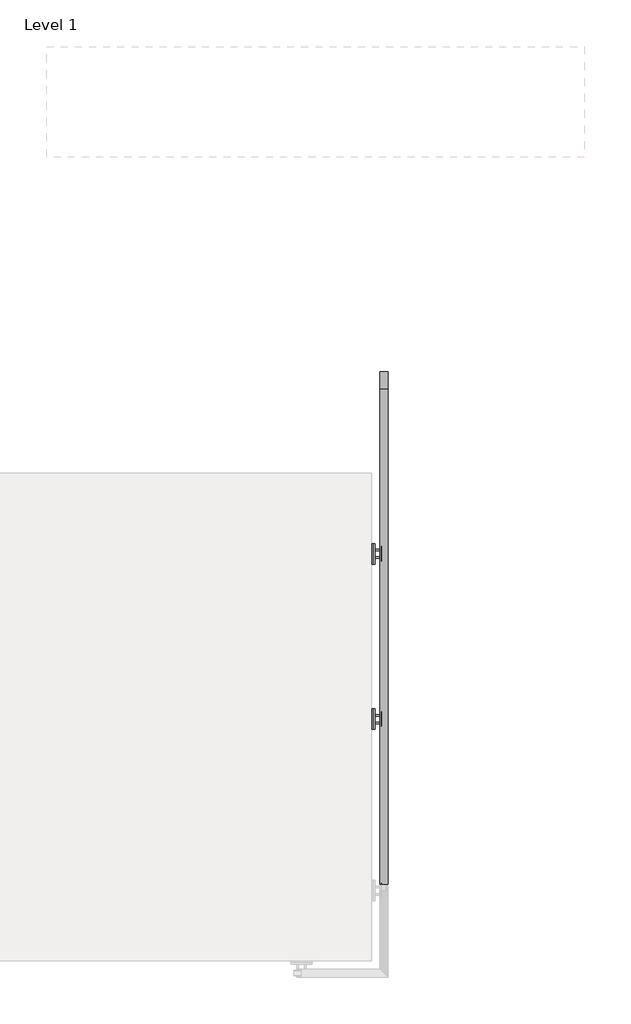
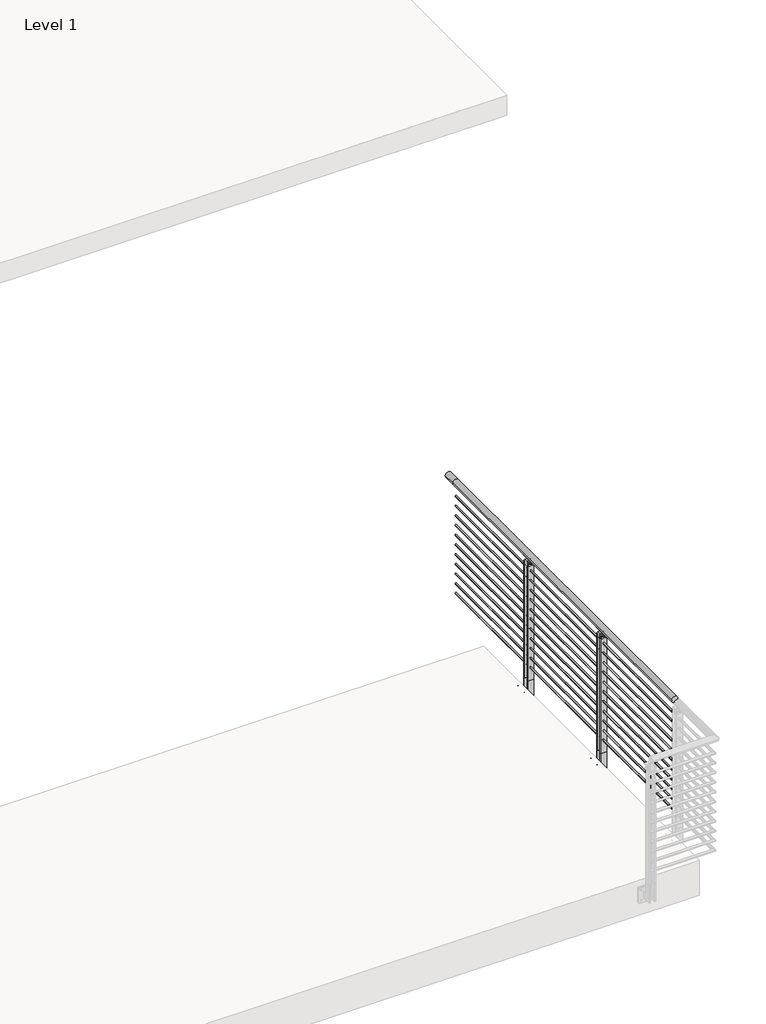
# One storey, part 4 of 36: 1 railing.
"""IFC4 building model written with IfcOpenShell, lengths in millimetres."""

from ifc_helpers import new_model, si_unit, point, frame, frame_2d, origin, origin_with_axes, place, context, project, spatial, polyline, circle_curve, trimmed, segment, composite_curve, outline, extrude, element, save
from ifc_brep_helpers import plane_surface, cylinder_surface, revolved_surface, advanced_brep

model = new_model("IFC4")

# Units and contexts
model_context = context("Model", 3, world=origin())
ifc_project = project(units=[si_unit("LENGTHUNIT", "METRE", prefix="MILLI")], contexts=[model_context])

# Site, building, storey
site = spatial("IfcSite", under=ifc_project)
building = spatial("IfcBuilding", under=site)
storey = spatial("IfcBuildingStorey", under=building, Name="Level 1", Elevation=0.0)

# Railing
placement = place(None, origin())
element("IfcRailing", 1, ObjectType="VIVA-BLADE-Multiline-Fascia Mount-Straight", at=placement, inside=storey, context=model_context, shape_type="SolidModel", body=[
    advanced_brep(
    [(-4882.5880416, -71395.7334719, 1054.1), (-4831.7880416, -71395.7334719, 1054.1), (-4882.5880416, -71497.3334719, 1054.1), (-4831.7880416, -71497.3334719, 1054.1), (-4882.5880416, -74545.3334719, 1054.1), (-4831.7880416, -74545.3334719, 1054.1)],
    [
        (0, 1, circle_curve(frame((-4857.1880416, -71395.7334719, 1054.1), z_axis=(0.0, 1.0, 0.0), x_axis=(1.0, 0.0, 0.0)), 25.4)),
        (1, 0, circle_curve(frame((-4857.1880416, -71395.7334719, 1054.1), z_axis=(0.0, 1.0, 0.0), x_axis=(1.0, 0.0, 0.0)), 25.4)),
        (0, 2),
        (2, 3, circle_curve(frame((-4857.1880416, -71497.3334719, 1054.1), z_axis=(0.0, 1.0, 0.0), x_axis=(1.0, 0.0, 0.0)), 25.4)),
        (3, 1),
        (3, 2, circle_curve(frame((-4857.1880416, -71497.3334719, 1054.1), z_axis=(0.0, 1.0, 0.0), x_axis=(1.0, 0.0, 0.0)), 25.4)),
        (4, 5, circle_curve(frame((-4857.1880416, -74545.3334719, 1054.1), z_axis=(0.0, -1.0, 0.0), x_axis=(1.0, 0.0, 0.0)), 25.4)),
        (5, 4, circle_curve(frame((-4857.1880416, -74545.3334719, 1054.1), z_axis=(0.0, -1.0, 0.0), x_axis=(1.0, 0.0, 0.0)), 25.4)),
        (2, 4),
        (5, 3),
    ],
    [
        plane_surface(frame((-4857.1880416, -71395.7334719, 1079.5), z_axis=(0.0, 1.0, 0.0), x_axis=(0.0, 0.0, -1.0))),
        cylinder_surface(frame((-4857.1880416, -71395.7334719, 1054.1), z_axis=(0.0, 1.0, 0.0), x_axis=(1.0, 0.0, 0.0)), 25.4),
        plane_surface(frame((-4857.1880416, -74545.3334719, 1079.5), z_axis=(0.0, -1.0, 0.0), x_axis=(0.0, 0.0, -1.0))),
        cylinder_surface(frame((-4857.1880416, -71497.3334719, 1054.1), z_axis=(0.0, 1.0, 0.0), x_axis=(1.0, 0.0, 0.0)), 25.4),
    ],
    [
        (0, [[1, 2]]),
        (1, [[-1, 3, 4, 5]]),
        (1, [[-2, -5, 6, -3]]),
        (2, [[7, 8]]),
        (3, [[-4, 9, -8, 10]]),
        (3, [[-6, -10, -7, -9]]),
    ],
),
    extrude(outline(composite_curve([segment(trimmed(circle_curve(frame_2d((933.45, -4857.1880416)), 6.35), [point((933.45, -4863.5380416))], [point((933.45, -4850.8380416))], False, "CARTESIAN"), True, "CONTINUOUS"), segment(trimmed(circle_curve(frame_2d((933.45, -4857.1880416)), 6.35), [point((933.45, -4850.8380416))], [point((933.45, -4863.5380416))], False, "CARTESIAN"), True, "CONTINUOUS")], self_intersect=False)), frame((0.0, -74545.3334719, 0.0), z_axis=(0.0, 1.0, 0.0), x_axis=(0.0, 0.0, 1.0)), (0.0, 0.0, 1.0), 3048.0),
    extrude(outline(composite_curve([segment(trimmed(circle_curve(frame_2d((850.9, -4857.1880416)), 6.35), [point((850.9, -4863.5380416))], [point((850.9, -4850.8380416))], False, "CARTESIAN"), True, "CONTINUOUS"), segment(trimmed(circle_curve(frame_2d((850.9, -4857.1880416)), 6.35), [point((850.9, -4850.8380416))], [point((850.9, -4863.5380416))], False, "CARTESIAN"), True, "CONTINUOUS")], self_intersect=False)), frame((0.0, -74545.3334719, 0.0), z_axis=(0.0, 1.0, 0.0), x_axis=(0.0, 0.0, 1.0)), (0.0, 0.0, 1.0), 3048.0),
    extrude(outline(composite_curve([segment(trimmed(circle_curve(frame_2d((768.35, -4857.1880416)), 6.35), [point((768.35, -4863.5380416))], [point((768.35, -4850.8380416))], False, "CARTESIAN"), True, "CONTINUOUS"), segment(trimmed(circle_curve(frame_2d((768.35, -4857.1880416)), 6.35), [point((768.35, -4850.8380416))], [point((768.35, -4863.5380416))], False, "CARTESIAN"), True, "CONTINUOUS")], self_intersect=False)), frame((0.0, -74545.3334719, 0.0), z_axis=(0.0, 1.0, 0.0), x_axis=(0.0, 0.0, 1.0)), (0.0, 0.0, 1.0), 3048.0),
    extrude(outline(composite_curve([segment(trimmed(circle_curve(frame_2d((685.8, -4857.1880416)), 6.35), [point((685.8, -4863.5380416))], [point((685.8, -4850.8380416))], False, "CARTESIAN"), True, "CONTINUOUS"), segment(trimmed(circle_curve(frame_2d((685.8, -4857.1880416)), 6.35), [point((685.8, -4850.8380416))], [point((685.8, -4863.5380416))], False, "CARTESIAN"), True, "CONTINUOUS")], self_intersect=False)), frame((0.0, -74545.3334719, 0.0), z_axis=(0.0, 1.0, 0.0), x_axis=(0.0, 0.0, 1.0)), (0.0, 0.0, 1.0), 3048.0),
    extrude(outline(composite_curve([segment(trimmed(circle_curve(frame_2d((603.25, -4857.1880416)), 6.35), [point((603.25, -4863.5380416))], [point((603.25, -4850.8380416))], False, "CARTESIAN"), True, "CONTINUOUS"), segment(trimmed(circle_curve(frame_2d((603.25, -4857.1880416)), 6.35), [point((603.25, -4850.8380416))], [point((603.25, -4863.5380416))], False, "CARTESIAN"), True, "CONTINUOUS")], self_intersect=False)), frame((0.0, -74545.3334719, 0.0), z_axis=(0.0, 1.0, 0.0), x_axis=(0.0, 0.0, 1.0)), (0.0, 0.0, 1.0), 3048.0),
    extrude(outline(composite_curve([segment(trimmed(circle_curve(frame_2d((520.7, -4857.1880416)), 6.35), [point((520.7, -4863.5380416))], [point((520.7, -4850.8380416))], False, "CARTESIAN"), True, "CONTINUOUS"), segment(trimmed(circle_curve(frame_2d((520.7, -4857.1880416)), 6.35), [point((520.7, -4850.8380416))], [point((520.7, -4863.5380416))], False, "CARTESIAN"), True, "CONTINUOUS")], self_intersect=False)), frame((0.0, -74545.3334719, 0.0), z_axis=(0.0, 1.0, 0.0), x_axis=(0.0, 0.0, 1.0)), (0.0, 0.0, 1.0), 3048.0),
    extrude(outline(composite_curve([segment(trimmed(circle_curve(frame_2d((438.15, -4857.1880416)), 6.35), [point((438.15, -4863.5380416))], [point((438.15, -4850.8380416))], False, "CARTESIAN"), True, "CONTINUOUS"), segment(trimmed(circle_curve(frame_2d((438.15, -4857.1880416)), 6.35), [point((438.15, -4850.8380416))], [point((438.15, -4863.5380416))], False, "CARTESIAN"), True, "CONTINUOUS")], self_intersect=False)), frame((0.0, -74545.3334719, 0.0), z_axis=(0.0, 1.0, 0.0), x_axis=(0.0, 0.0, 1.0)), (0.0, 0.0, 1.0), 3048.0),
    extrude(outline(composite_curve([segment(trimmed(circle_curve(frame_2d((355.6, -4857.1880416)), 6.35), [point((355.6, -4863.5380416))], [point((355.6, -4850.8380416))], False, "CARTESIAN"), True, "CONTINUOUS"), segment(trimmed(circle_curve(frame_2d((355.6, -4857.1880416)), 6.35), [point((355.6, -4850.8380416))], [point((355.6, -4863.5380416))], False, "CARTESIAN"), True, "CONTINUOUS")], self_intersect=False)), frame((0.0, -74545.3334719, 0.0), z_axis=(0.0, 1.0, 0.0), x_axis=(0.0, 0.0, 1.0)), (0.0, 0.0, 1.0), 3048.0),
    extrude(outline(composite_curve([segment(trimmed(circle_curve(frame_2d((273.05, -4857.1880416)), 6.35), [point((273.05, -4863.5380416))], [point((273.05, -4850.8380416))], False, "CARTESIAN"), True, "CONTINUOUS"), segment(trimmed(circle_curve(frame_2d((273.05, -4857.1880416)), 6.35), [point((273.05, -4850.8380416))], [point((273.05, -4863.5380416))], False, "CARTESIAN"), True, "CONTINUOUS")], self_intersect=False)), frame((0.0, -74545.3334719, 0.0), z_axis=(0.0, 1.0, 0.0), x_axis=(0.0, 0.0, 1.0)), (0.0, 0.0, 1.0), 3048.0),
    extrude(outline(composite_curve([segment(trimmed(circle_curve(frame_2d((190.5, -4857.1880416)), 6.35), [point((190.5, -4863.5380416))], [point((190.5, -4850.8380416))], False, "CARTESIAN"), True, "CONTINUOUS"), segment(trimmed(circle_curve(frame_2d((190.5, -4857.1880416)), 6.35), [point((190.5, -4850.8380416))], [point((190.5, -4863.5380416))], False, "CARTESIAN"), True, "CONTINUOUS")], self_intersect=False)), frame((0.0, -74545.3334719, 0.0), z_axis=(0.0, 1.0, 0.0), x_axis=(0.0, 0.0, 1.0)), (0.0, 0.0, 1.0), 3048.0),
    extrude(outline(composite_curve([segment(trimmed(circle_curve(frame_2d((107.95, -4857.1880416)), 6.35), [point((107.95, -4863.5380416))], [point((107.95, -4850.8380416))], False, "CARTESIAN"), True, "CONTINUOUS"), segment(trimmed(circle_curve(frame_2d((107.95, -4857.1880416)), 6.35), [point((107.95, -4850.8380416))], [point((107.95, -4863.5380416))], False, "CARTESIAN"), True, "CONTINUOUS")], self_intersect=False)), frame((0.0, -74545.3334719, 0.0), z_axis=(0.0, 1.0, 0.0), x_axis=(0.0, 0.0, 1.0)), (0.0, 0.0, 1.0), 3048.0),
    extrude(outline(polyline([(-146.05, -4831.7855137), (0.0, -4831.7855137), (0.0, -4882.5855137), (-95.25, -4882.5855137), (-95.25, -4914.3382474), (-146.05, -4914.3382474), (-146.05, -4831.7855137)])), frame((0.0, -73510.2834719, 0.0), z_axis=(0.0, 1.0, 0.0), x_axis=(0.0, 0.0, 1.0)), (0.0, 0.0, 1.0), 8.0248357),
    extrude(outline(polyline([(0.0, -4882.5855137), (-95.25, -4882.5855137), (-95.25, -4914.3382474), (-146.05, -4914.3382474), (-146.05, -4831.7855137), (0.0, -4831.7855137), (0.0, -4882.5855137)])), frame((0.0, -73556.3844338, 0.0), z_axis=(0.0, 1.0, 0.0), x_axis=(0.0, 0.0, 1.0)), (0.0, 0.0, 1.0), 8.001),
    advanced_brep(
    [(-4869.9481653, -73574.5708719, 1032.0967655), (-4873.7840627, -73574.5708719, 1027.707533), (-4842.2671704, -73574.5708719, 1027.1267745), (-4845.0761007, -73574.5708719, 1031.9535285), (-4869.9481653, -73484.0960719, 1032.0967655), (-4844.9891286, -73484.0960719, 1032.0018447), (-4842.153377, -73484.0960719, 1027.1893964), (-4873.7840627, -73484.0960719, 1027.707533)],
    [
        (0, 1, circle_curve(frame((-4871.4957229, -73574.5708719, 1029.5784521), z_axis=(0.0, -1.0, 0.0), x_axis=(-1.0, 0.0, 0.0)), 2.9558141)),
        (1, 2, circle_curve(frame((-4857.5178255, -73574.5708719, 1054.9742164), z_axis=(0.0, -1.0, 0.0), x_axis=(-1.0, 0.0, 0.0)), 31.75)),
        (2, 3, circle_curve(frame((-4843.7444755, -73574.5708719, 1029.4993599), z_axis=(0.0, -1.0, 0.0), x_axis=(-1.0, 0.0, 0.0)), 2.7949225)),
        (3, 0, circle_curve(frame((-4857.3843624, -73574.5708719, 1054.2115898), z_axis=(0.0, 1.0, 0.0), x_axis=(-1.0, 0.0, 0.0)), 25.4345159)),
        (4, 5, circle_curve(frame((-4857.3843624, -73484.0960719, 1054.2115898), z_axis=(0.0, -1.0, 0.0), x_axis=(-1.0, 0.0, 0.0)), 25.4345159)),
        (5, 6, circle_curve(frame((-4843.7444755, -73484.0960719, 1029.4993599), z_axis=(0.0, 1.0, 0.0), x_axis=(-1.0, 0.0, 0.0)), 2.7949225)),
        (6, 7, circle_curve(frame((-4857.5178255, -73484.0960719, 1054.9742164), z_axis=(0.0, 1.0, 0.0), x_axis=(-1.0, 0.0, 0.0)), 31.75)),
        (7, 4, circle_curve(frame((-4871.4957229, -73484.0960719, 1029.5784521), z_axis=(0.0, 1.0, 0.0), x_axis=(-1.0, 0.0, 0.0)), 2.9558141)),
        (3, 5),
        (4, 0),
        (2, 6),
        (1, 7),
    ],
    [
        plane_surface(frame((-4882.8188782, -73574.5708719, 1054.2115898), z_axis=(0.0, -1.0, 0.0), x_axis=(0.0, 0.0, -1.0))),
        plane_surface(frame((-4882.8188782, -73484.0960719, 1054.2115898), z_axis=(0.0, 1.0, 0.0), x_axis=(0.0, 0.0, 1.0))),
        revolved_surface(polyline([(-4882.8188783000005, -73484.0960719, 1054.2115898), (-4882.8188783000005, -73574.5708719, 1054.2115898)]), (-4857.3843624, -73484.0960719, 1054.2115898), (0.0, 1.0, 0.0)),
        cylinder_surface(frame((-4843.7444755, -73484.0960719, 1029.4993599), z_axis=(0.0, -1.0, 0.0), x_axis=(-1.0, 0.0, 0.0)), 2.7949225),
        cylinder_surface(frame((-4857.5178255, -73484.0960719, 1054.9742164), z_axis=(0.0, -1.0, 0.0), x_axis=(-1.0, 0.0, 0.0)), 31.75),
        cylinder_surface(frame((-4871.4957229, -73484.0960719, 1029.5784521), z_axis=(0.0, -1.0, 0.0), x_axis=(-1.0, 0.0, 0.0)), 2.9558141),
    ],
    [
        (0, [[1, 2, 3, 4]]),
        (1, [[5, 6, 7, 8]]),
        (2, [[9, -5, 10, -4]]),
        (3, [[11, -6, -9, -3]]),
        (4, [[12, -7, -11, -2]]),
        (5, [[-10, -8, -12, -1]]),
    ],
),
    extrude(outline(polyline([(-4933.3882474, -73592.821535), (-4933.3882474, -73465.821535), (-4923.8632474, -73465.821535), (-4923.8632474, -73592.821535), (-4933.3882474, -73592.821535)])), frame((0.0, 0.0, -184.15), z_axis=(0.0, 0.0, 1.0), x_axis=(1.0, 0.0, 0.0)), (0.0, 0.0, 1.0), 127.0),
    advanced_brep(
    [(-4859.7280416, -73542.0334719, 1014.4125), (-4859.7280416, -73556.4013867, 1028.7804149), (-4859.7280416, -73502.265557, 1028.7804149), (-4859.7280416, -73516.6334719, 1014.4125), (-4854.6480416, -73542.0334719, 1014.4125), (-4854.6480416, -73516.6334719, 1014.4125), (-4854.6480416, -73502.265557, 1028.7804149), (-4854.6480416, -73556.4013867, 1028.7804149)],
    [
        (0, 1, circle_curve(frame((-4859.7280416, -73556.4013867, 1014.4125), z_axis=(1.0, 0.0, 0.0), x_axis=(0.0, 1.0, 0.0)), 14.3679149)),
        (1, 2),
        (2, 3, circle_curve(frame((-4859.7280416, -73502.265557, 1014.4125), z_axis=(1.0, 0.0, 0.0), x_axis=(0.0, 1.0, 0.0)), 14.3679149)),
        (3, 0),
        (4, 5),
        (5, 6, circle_curve(frame((-4854.6480416, -73502.265557, 1014.4125), z_axis=(-1.0, 0.0, 0.0), x_axis=(0.0, 1.0, 0.0)), 14.3679149)),
        (6, 7),
        (7, 4, circle_curve(frame((-4854.6480416, -73556.4013867, 1014.4125), z_axis=(-1.0, 0.0, 0.0), x_axis=(0.0, 1.0, 0.0)), 14.3679149)),
        (3, 5),
        (4, 0),
        (2, 6),
        (1, 7),
    ],
    [
        plane_surface(frame((-4859.7280416, -73516.6334719, 1014.4125), z_axis=(-1.0, 0.0, 0.0), x_axis=(0.0, 1.0, 0.0))),
        plane_surface(frame((-4854.6480416, -73516.6334719, 1014.4125), z_axis=(1.0, 0.0, 0.0), x_axis=(0.0, -1.0, 0.0))),
        plane_surface(frame((-4859.7280416, -73542.0334719, 1014.4125), z_axis=(0.0, 0.0, -1.0), x_axis=(1.0, 0.0, 0.0))),
        revolved_surface(polyline([(-4854.6480416, -73487.89764210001, 1014.4125), (-4859.7280416, -73487.89764210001, 1014.4125)]), (-4854.6480416, -73502.265557, 1014.4125), (1.0, 0.0, 0.0)),
        plane_surface(frame((-4859.7280416, -73502.265557, 1028.7804149), z_axis=(0.0, 0.0, 1.0), x_axis=(1.0, 0.0, 0.0))),
        revolved_surface(polyline([(-4854.6480416, -73542.03347180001, 1014.4125), (-4859.7280416, -73542.03347180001, 1014.4125)]), (-4854.6480416, -73556.4013867, 1014.4125), (1.0, 0.0, 0.0)),
    ],
    [
        (0, [[1, 2, 3, 4]]),
        (1, [[5, 6, 7, 8]]),
        (2, [[9, -5, 10, -4]]),
        (3, [[11, -6, -9, -3]]),
        (4, [[12, -7, -11, -2]]),
        (5, [[-10, -8, -12, -1]]),
    ],
),
    extrude(outline(polyline([(-4882.5878383, -73502.2586362), (-4831.7855137, -73502.2586362), (-4831.7855137, -73510.2834719), (-4882.5878383, -73510.2834719), (-4882.5878383, -73502.2586362)])), origin_with_axes(), (0.0, 0.0, 1.0), 996.95),
    extrude(outline(polyline([(-73465.821535, -184.15), (-73592.821535, -184.15), (-73592.821535, -57.15), (-73465.821535, -57.15), (-73465.821535, -184.15)]), holes=[composite_curve([segment(trimmed(circle_curve(frame_2d((-73484.871535, -76.2)), 4.7068371), [point((-73489.5783721, -76.2))], [point((-73480.1646979, -76.2))], True, "CARTESIAN"), True, "CONTINUOUS"), segment(trimmed(circle_curve(frame_2d((-73484.871535, -76.2)), 4.7068371), [point((-73480.1646979, -76.2))], [point((-73489.5783721, -76.2))], True, "CARTESIAN"), True, "CONTINUOUS")], self_intersect=False), composite_curve([segment(trimmed(circle_curve(frame_2d((-73573.771535, -76.2)), 4.7068371), [point((-73578.4783721, -76.2))], [point((-73569.0646979, -76.2))], True, "CARTESIAN"), True, "CONTINUOUS"), segment(trimmed(circle_curve(frame_2d((-73573.771535, -76.2)), 4.7068371), [point((-73569.0646979, -76.2))], [point((-73578.4783721, -76.2))], True, "CARTESIAN"), True, "CONTINUOUS")], self_intersect=False), composite_curve([segment(trimmed(circle_curve(frame_2d((-73573.771535, -165.1)), 4.7068371), [point((-73578.4783721, -165.1))], [point((-73569.0646979, -165.1))], True, "CARTESIAN"), True, "CONTINUOUS"), segment(trimmed(circle_curve(frame_2d((-73573.771535, -165.1)), 4.7068371), [point((-73569.0646979, -165.1))], [point((-73578.4783721, -165.1))], True, "CARTESIAN"), True, "CONTINUOUS")], self_intersect=False), composite_curve([segment(trimmed(circle_curve(frame_2d((-73484.871535, -165.1)), 4.7068371), [point((-73489.5783721, -165.1))], [point((-73480.1646979, -165.1))], True, "CARTESIAN"), True, "CONTINUOUS"), segment(trimmed(circle_curve(frame_2d((-73484.871535, -165.1)), 4.7068371), [point((-73480.1646979, -165.1))], [point((-73489.5783721, -165.1))], True, "CARTESIAN"), True, "CONTINUOUS")], self_intersect=False)]), frame((-4923.8632474, 0.0, 0.0), z_axis=(1.0, 0.0, 0.0), x_axis=(0.0, 1.0, 0.0)), (0.0, 0.0, 1.0), 9.525),
    extrude(outline(composite_curve([segment(trimmed(circle_curve(frame_2d((986.0416929, -4844.4855647)), 8.89), [point((986.0416929, -4835.5955647))], [point((986.0416929, -4853.3755647))], False, "CARTESIAN"), True, "CONTINUOUS"), segment(trimmed(circle_curve(frame_2d((986.0416929, -4844.4855647)), 8.89), [point((986.0416929, -4853.3755647))], [point((986.0416929, -4835.5955647))], False, "CARTESIAN"), True, "CONTINUOUS")], self_intersect=False)), frame((0.0, -73561.071535, 0.0), z_axis=(0.0, 1.0, 0.0), x_axis=(0.0, 0.0, 1.0)), (0.0, 0.0, 1.0), 63.4880631),
    extrude(outline(composite_curve([segment(trimmed(circle_curve(frame_2d((986.0416929, -4869.8854627)), 8.89), [point((986.0416929, -4860.9954627))], [point((986.0416929, -4878.7754627))], False, "CARTESIAN"), True, "CONTINUOUS"), segment(trimmed(circle_curve(frame_2d((986.0416929, -4869.8854627)), 8.89), [point((986.0416929, -4878.7754627))], [point((986.0416929, -4860.9954627))], False, "CARTESIAN"), True, "CONTINUOUS")], self_intersect=False)), frame((0.0, -73561.071535, 0.0), z_axis=(0.0, 1.0, 0.0), x_axis=(0.0, 0.0, 1.0)), (0.0, 0.0, 1.0), 63.4880631),
    extrude(outline(polyline([(-73510.2834719, 974.7123), (-73548.3834719, 974.7123), (-73548.3834719, 1008.0625), (-73542.0334719, 1014.4125), (-73516.6334719, 1014.4125), (-73510.2834719, 1008.0625), (-73510.2834719, 974.7123)])), frame((-4882.5880416, 0.0, 0.0), z_axis=(1.0, 0.0, 0.0), x_axis=(0.0, 1.0, 0.0)), (0.0, 0.0, 1.0), 50.8025279),
    extrude(outline(polyline([(-4882.5878383, -73548.3834338), (-4831.7855137, -73548.3834338), (-4831.7855137, -73556.3844338), (-4882.5878383, -73556.3844338), (-4882.5878383, -73548.3834338)])), origin_with_axes(), (0.0, 0.0, 1.0), 996.95),
    extrude(outline(polyline([(-146.05, -4831.7855137), (0.0, -4831.7855137), (0.0, -4882.5855137), (-95.25, -4882.5855137), (-95.25, -4914.3382474), (-146.05, -4914.3382474), (-146.05, -4831.7855137)])), frame((0.0, -72494.2834719, 0.0), z_axis=(0.0, 1.0, 0.0), x_axis=(0.0, 0.0, 1.0)), (0.0, 0.0, 1.0), 8.0248357),
    extrude(outline(polyline([(0.0, -4882.5855137), (-95.25, -4882.5855137), (-95.25, -4914.3382474), (-146.05, -4914.3382474), (-146.05, -4831.7855137), (0.0, -4831.7855137), (0.0, -4882.5855137)])), frame((0.0, -72540.3844338, 0.0), z_axis=(0.0, 1.0, 0.0), x_axis=(0.0, 0.0, 1.0)), (0.0, 0.0, 1.0), 8.001),
    advanced_brep(
    [(-4869.9481653, -72558.5708719, 1032.0967655), (-4873.7840627, -72558.5708719, 1027.707533), (-4842.2671704, -72558.5708719, 1027.1267745), (-4845.0761007, -72558.5708719, 1031.9535285), (-4869.9481653, -72468.0960719, 1032.0967655), (-4844.9891286, -72468.0960719, 1032.0018447), (-4842.153377, -72468.0960719, 1027.1893964), (-4873.7840627, -72468.0960719, 1027.707533)],
    [
        (0, 1, circle_curve(frame((-4871.4957229, -72558.5708719, 1029.5784521), z_axis=(0.0, -1.0, 0.0), x_axis=(-1.0, 0.0, 0.0)), 2.9558141)),
        (1, 2, circle_curve(frame((-4857.5178255, -72558.5708719, 1054.9742164), z_axis=(0.0, -1.0, 0.0), x_axis=(-1.0, 0.0, 0.0)), 31.75)),
        (2, 3, circle_curve(frame((-4843.7444755, -72558.5708719, 1029.4993599), z_axis=(0.0, -1.0, 0.0), x_axis=(-1.0, 0.0, 0.0)), 2.7949225)),
        (3, 0, circle_curve(frame((-4857.3843624, -72558.5708719, 1054.2115898), z_axis=(0.0, 1.0, 0.0), x_axis=(-1.0, 0.0, 0.0)), 25.4345159)),
        (4, 5, circle_curve(frame((-4857.3843624, -72468.0960719, 1054.2115898), z_axis=(0.0, -1.0, 0.0), x_axis=(-1.0, 0.0, 0.0)), 25.4345159)),
        (5, 6, circle_curve(frame((-4843.7444755, -72468.0960719, 1029.4993599), z_axis=(0.0, 1.0, 0.0), x_axis=(-1.0, 0.0, 0.0)), 2.7949225)),
        (6, 7, circle_curve(frame((-4857.5178255, -72468.0960719, 1054.9742164), z_axis=(0.0, 1.0, 0.0), x_axis=(-1.0, 0.0, 0.0)), 31.75)),
        (7, 4, circle_curve(frame((-4871.4957229, -72468.0960719, 1029.5784521), z_axis=(0.0, 1.0, 0.0), x_axis=(-1.0, 0.0, 0.0)), 2.9558141)),
        (3, 5),
        (4, 0),
        (2, 6),
        (1, 7),
    ],
    [
        plane_surface(frame((-4882.8188782, -72558.5708719, 1054.2115898), z_axis=(0.0, -1.0, 0.0), x_axis=(0.0, 0.0, -1.0))),
        plane_surface(frame((-4882.8188782, -72468.0960719, 1054.2115898), z_axis=(0.0, 1.0, 0.0), x_axis=(0.0, 0.0, 1.0))),
        revolved_surface(polyline([(-4882.8188783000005, -72468.0960719, 1054.2115898), (-4882.8188783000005, -72558.5708719, 1054.2115898)]), (-4857.3843624, -72468.0960719, 1054.2115898), (0.0, 1.0, 0.0)),
        cylinder_surface(frame((-4843.7444755, -72468.0960719, 1029.4993599), z_axis=(0.0, -1.0, 0.0), x_axis=(-1.0, 0.0, 0.0)), 2.7949225),
        cylinder_surface(frame((-4857.5178255, -72468.0960719, 1054.9742164), z_axis=(0.0, -1.0, 0.0), x_axis=(-1.0, 0.0, 0.0)), 31.75),
        cylinder_surface(frame((-4871.4957229, -72468.0960719, 1029.5784521), z_axis=(0.0, -1.0, 0.0), x_axis=(-1.0, 0.0, 0.0)), 2.9558141),
    ],
    [
        (0, [[1, 2, 3, 4]]),
        (1, [[5, 6, 7, 8]]),
        (2, [[9, -5, 10, -4]]),
        (3, [[11, -6, -9, -3]]),
        (4, [[12, -7, -11, -2]]),
        (5, [[-10, -8, -12, -1]]),
    ],
),
    extrude(outline(polyline([(-4933.3882474, -72576.821535), (-4933.3882474, -72449.821535), (-4923.8632474, -72449.821535), (-4923.8632474, -72576.821535), (-4933.3882474, -72576.821535)])), frame((0.0, 0.0, -184.15), z_axis=(0.0, 0.0, 1.0), x_axis=(1.0, 0.0, 0.0)), (0.0, 0.0, 1.0), 127.0),
    advanced_brep(
    [(-4859.7280416, -72526.0334719, 1014.4125), (-4859.7280416, -72540.4013867, 1028.7804149), (-4859.7280416, -72486.265557, 1028.7804149), (-4859.7280416, -72500.6334719, 1014.4125), (-4854.6480416, -72526.0334719, 1014.4125), (-4854.6480416, -72500.6334719, 1014.4125), (-4854.6480416, -72486.265557, 1028.7804149), (-4854.6480416, -72540.4013867, 1028.7804149)],
    [
        (0, 1, circle_curve(frame((-4859.7280416, -72540.4013867, 1014.4125), z_axis=(1.0, 0.0, 0.0), x_axis=(0.0, 1.0, 0.0)), 14.3679149)),
        (1, 2),
        (2, 3, circle_curve(frame((-4859.7280416, -72486.265557, 1014.4125), z_axis=(1.0, 0.0, 0.0), x_axis=(0.0, 1.0, 0.0)), 14.3679149)),
        (3, 0),
        (4, 5),
        (5, 6, circle_curve(frame((-4854.6480416, -72486.265557, 1014.4125), z_axis=(-1.0, 0.0, 0.0), x_axis=(0.0, 1.0, 0.0)), 14.3679149)),
        (6, 7),
        (7, 4, circle_curve(frame((-4854.6480416, -72540.4013867, 1014.4125), z_axis=(-1.0, 0.0, 0.0), x_axis=(0.0, 1.0, 0.0)), 14.3679149)),
        (3, 5),
        (4, 0),
        (2, 6),
        (1, 7),
    ],
    [
        plane_surface(frame((-4859.7280416, -72500.6334719, 1014.4125), z_axis=(-1.0, 0.0, 0.0), x_axis=(0.0, 1.0, 0.0))),
        plane_surface(frame((-4854.6480416, -72500.6334719, 1014.4125), z_axis=(1.0, 0.0, 0.0), x_axis=(0.0, -1.0, 0.0))),
        plane_surface(frame((-4859.7280416, -72526.0334719, 1014.4125), z_axis=(0.0, 0.0, -1.0), x_axis=(1.0, 0.0, 0.0))),
        revolved_surface(polyline([(-4854.6480416, -72471.89764210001, 1014.4125), (-4859.7280416, -72471.89764210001, 1014.4125)]), (-4854.6480416, -72486.265557, 1014.4125), (1.0, 0.0, 0.0)),
        plane_surface(frame((-4859.7280416, -72486.265557, 1028.7804149), z_axis=(0.0, 0.0, 1.0), x_axis=(1.0, 0.0, 0.0))),
        revolved_surface(polyline([(-4854.6480416, -72526.03347180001, 1014.4125), (-4859.7280416, -72526.03347180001, 1014.4125)]), (-4854.6480416, -72540.4013867, 1014.4125), (1.0, 0.0, 0.0)),
    ],
    [
        (0, [[1, 2, 3, 4]]),
        (1, [[5, 6, 7, 8]]),
        (2, [[9, -5, 10, -4]]),
        (3, [[11, -6, -9, -3]]),
        (4, [[12, -7, -11, -2]]),
        (5, [[-10, -8, -12, -1]]),
    ],
),
    extrude(outline(polyline([(-4882.5878383, -72486.2586362), (-4831.7855137, -72486.2586362), (-4831.7855137, -72494.2834719), (-4882.5878383, -72494.2834719), (-4882.5878383, -72486.2586362)])), origin_with_axes(), (0.0, 0.0, 1.0), 996.95),
    extrude(outline(polyline([(-72449.821535, -184.15), (-72576.821535, -184.15), (-72576.821535, -57.15), (-72449.821535, -57.15), (-72449.821535, -184.15)]), holes=[composite_curve([segment(trimmed(circle_curve(frame_2d((-72468.871535, -76.2)), 4.7068371), [point((-72473.5783721, -76.2))], [point((-72464.1646979, -76.2))], True, "CARTESIAN"), True, "CONTINUOUS"), segment(trimmed(circle_curve(frame_2d((-72468.871535, -76.2)), 4.7068371), [point((-72464.1646979, -76.2))], [point((-72473.5783721, -76.2))], True, "CARTESIAN"), True, "CONTINUOUS")], self_intersect=False), composite_curve([segment(trimmed(circle_curve(frame_2d((-72557.771535, -76.2)), 4.7068371), [point((-72562.4783721, -76.2))], [point((-72553.0646979, -76.2))], True, "CARTESIAN"), True, "CONTINUOUS"), segment(trimmed(circle_curve(frame_2d((-72557.771535, -76.2)), 4.7068371), [point((-72553.0646979, -76.2))], [point((-72562.4783721, -76.2))], True, "CARTESIAN"), True, "CONTINUOUS")], self_intersect=False), composite_curve([segment(trimmed(circle_curve(frame_2d((-72557.771535, -165.1)), 4.7068371), [point((-72562.4783721, -165.1))], [point((-72553.0646979, -165.1))], True, "CARTESIAN"), True, "CONTINUOUS"), segment(trimmed(circle_curve(frame_2d((-72557.771535, -165.1)), 4.7068371), [point((-72553.0646979, -165.1))], [point((-72562.4783721, -165.1))], True, "CARTESIAN"), True, "CONTINUOUS")], self_intersect=False), composite_curve([segment(trimmed(circle_curve(frame_2d((-72468.871535, -165.1)), 4.7068371), [point((-72473.5783721, -165.1))], [point((-72464.1646979, -165.1))], True, "CARTESIAN"), True, "CONTINUOUS"), segment(trimmed(circle_curve(frame_2d((-72468.871535, -165.1)), 4.7068371), [point((-72464.1646979, -165.1))], [point((-72473.5783721, -165.1))], True, "CARTESIAN"), True, "CONTINUOUS")], self_intersect=False)]), frame((-4923.8632474, 0.0, 0.0), z_axis=(1.0, 0.0, 0.0), x_axis=(0.0, 1.0, 0.0)), (0.0, 0.0, 1.0), 9.525),
    extrude(outline(composite_curve([segment(trimmed(circle_curve(frame_2d((986.0416929, -4844.4855647)), 8.89), [point((986.0416929, -4835.5955647))], [point((986.0416929, -4853.3755647))], False, "CARTESIAN"), True, "CONTINUOUS"), segment(trimmed(circle_curve(frame_2d((986.0416929, -4844.4855647)), 8.89), [point((986.0416929, -4853.3755647))], [point((986.0416929, -4835.5955647))], False, "CARTESIAN"), True, "CONTINUOUS")], self_intersect=False)), frame((0.0, -72545.071535, 0.0), z_axis=(0.0, 1.0, 0.0), x_axis=(0.0, 0.0, 1.0)), (0.0, 0.0, 1.0), 63.4880631),
    extrude(outline(composite_curve([segment(trimmed(circle_curve(frame_2d((986.0416929, -4869.8854627)), 8.89), [point((986.0416929, -4860.9954627))], [point((986.0416929, -4878.7754627))], False, "CARTESIAN"), True, "CONTINUOUS"), segment(trimmed(circle_curve(frame_2d((986.0416929, -4869.8854627)), 8.89), [point((986.0416929, -4878.7754627))], [point((986.0416929, -4860.9954627))], False, "CARTESIAN"), True, "CONTINUOUS")], self_intersect=False)), frame((0.0, -72545.071535, 0.0), z_axis=(0.0, 1.0, 0.0), x_axis=(0.0, 0.0, 1.0)), (0.0, 0.0, 1.0), 63.4880631),
    extrude(outline(polyline([(-72494.2834719, 974.7123), (-72532.3834719, 974.7123), (-72532.3834719, 1008.0625), (-72526.0334719, 1014.4125), (-72500.6334719, 1014.4125), (-72494.2834719, 1008.0625), (-72494.2834719, 974.7123)])), frame((-4882.5880416, 0.0, 0.0), z_axis=(1.0, 0.0, 0.0), x_axis=(0.0, 1.0, 0.0)), (0.0, 0.0, 1.0), 50.8025279),
    extrude(outline(polyline([(-4882.5878383, -72532.3834338), (-4831.7855137, -72532.3834338), (-4831.7855137, -72540.3844338), (-4882.5878383, -72540.3844338), (-4882.5878383, -72532.3834338)])), origin_with_axes(), (0.0, 0.0, 1.0), 996.95),
])

save(model, "model.ifc")
